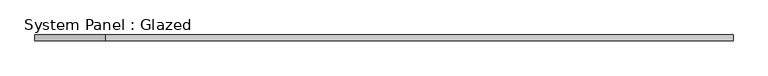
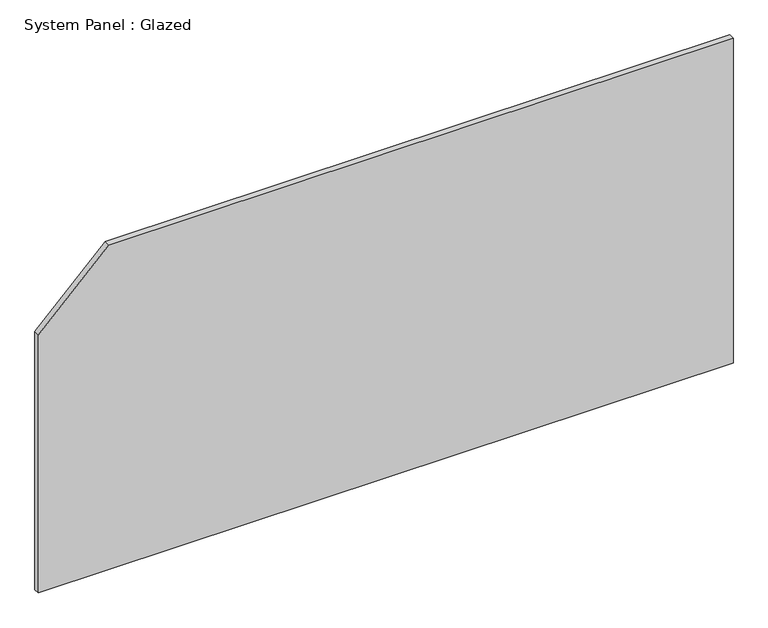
"""IFC4 building model written with IfcOpenShell, lengths in millimetres: plate geometry, System Panel : Glazed."""

from ifc_helpers import new_model, si_unit, frame, origin, place, context, project, spatial, polyline, outline, extrude, source, transform, mapped, element, save


def system_panel_glazed_401b64fa(model_context):
    return source(origin(), model_context, "Body", "SweptSolid", [
        extrude(outline(polyline([(0.0, -1476.3750001), (0.0, 1476.3750001), (1460.5, 1476.3750001), (1460.5, -1177.0224389), (1161.1474388, -1476.3750001), (0.0, -1476.3750001)])), frame((0.0, 19.05, 0.0), z_axis=(0.0, 1.0, 0.0), x_axis=(0.0, 0.0, 1.0)), (0.0, 0.0, 1.0), 25.4),
    ])


if __name__ == "__main__":
    model = new_model("IFC4")
    model_context = context("Model", 3, world=origin())
    ifc_project = project(units=[si_unit("LENGTHUNIT", "METRE", prefix="MILLI")], contexts=[model_context])
    site = spatial("IfcSite", under=ifc_project)
    building = spatial("IfcBuilding", under=site)
    placement = place(None, origin())
    system_panel_glazed_shape = system_panel_glazed_401b64fa(model_context)
    element("IfcPlate", 1, ObjectType="System Panel : Glazed", at=placement, inside=building, context=model_context, shape_type="MappedRepresentation", body=[
        mapped(system_panel_glazed_shape, transform((0.0, 0.0, 0.0), x_axis=(1.0, 0.0, 0.0), y_axis=(0.0, 1.0, 0.0), z_axis=(0.0, 0.0, 1.0))),
    ])
    save(model, "model.ifc")
